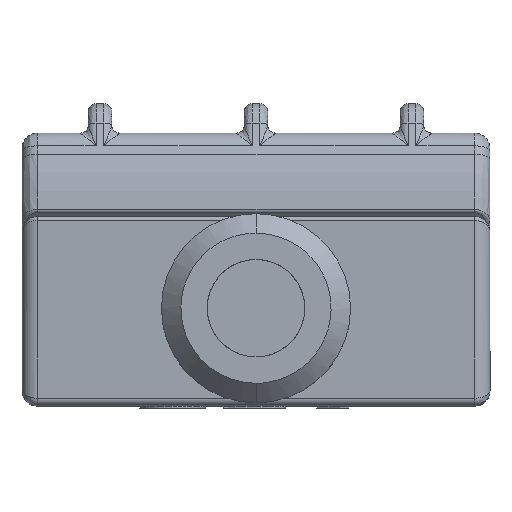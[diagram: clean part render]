
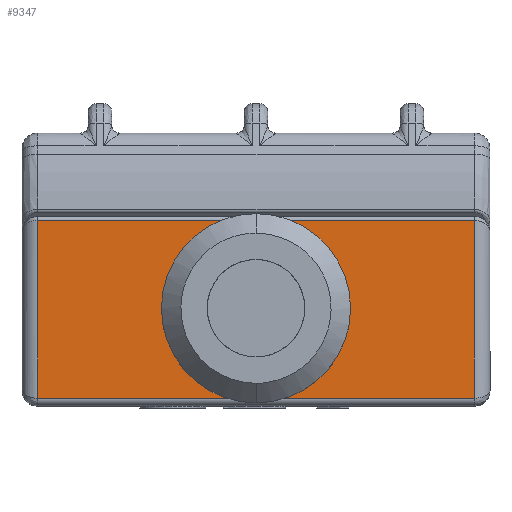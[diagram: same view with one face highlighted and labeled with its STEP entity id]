
A CAD part, top view. The second image highlights one B-rep face of the part: STEP entity #9347.
In plain terms, the highlighted planar face has unit normal (0, 0, 1).
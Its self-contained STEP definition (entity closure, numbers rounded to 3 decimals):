
#206 = CARTESIAN_POINT ( 'NONE',  ( 8.885, 15.037, 24.794 ) ) ;
#2674 = VECTOR ( 'NONE', #19135, 1000. ) ;
#3254 = VECTOR ( 'NONE', #5048, 1000. ) ;
#3287 = EDGE_CURVE ( 'NONE', #11479, #4508, #6193, .T. ) ;
#3518 = CARTESIAN_POINT ( 'NONE',  ( 8.885, 15.037, 24.794 ) ) ;
#3887 = ORIENTED_EDGE ( 'NONE', *, *, #15834, .T. ) ;
#4195 = DIRECTION ( 'NONE',  ( 0., 0., 1. ) ) ;
#4206 = DIRECTION ( 'NONE',  ( 0., 1., 0. ) ) ;
#4366 = CARTESIAN_POINT ( 'NONE',  ( 4.885, 15.037, 24.794 ) ) ;
#4508 = VERTEX_POINT ( 'NONE', #13192 ) ;
#4750 = LINE ( 'NONE', #5275, #5053 ) ;
#5048 = DIRECTION ( 'NONE',  ( 0., -1., 0. ) ) ;
#5053 = VECTOR ( 'NONE', #25549, 1000. ) ;
#5275 = CARTESIAN_POINT ( 'NONE',  ( 8.885, 10.437, 24.794 ) ) ;
#5543 = CIRCLE ( 'NONE', #10994, 4. ) ;
#5962 = EDGE_LOOP ( 'NONE', ( #16931, #20751 ) ) ;
#6021 = EDGE_CURVE ( 'NONE', #11479, #21424, #4750, .T. ) ;
#6177 = EDGE_CURVE ( 'NONE', #19596, #14875, #16121, .T. ) ;
#6193 = LINE ( 'NONE', #8174, #11264 ) ;
#7325 = FACE_BOUND ( 'NONE', #5962, .T. ) ;
#7911 = ORIENTED_EDGE ( 'NONE', *, *, #3287, .T. ) ;
#8174 = CARTESIAN_POINT ( 'NONE',  ( 20.085, 26.597, 24.794 ) ) ;
#9347 = ADVANCED_FACE ( 'NONE', ( #7325, #16824 ), #20192, .T. ) ;
#10544 = DIRECTION ( 'NONE',  ( 1., 0., 0. ) ) ;
#10994 = AXIS2_PLACEMENT_3D ( 'NONE', #3518, #13701, #17665 ) ;
#11264 = VECTOR ( 'NONE', #4206, 1000. ) ;
#11479 = VERTEX_POINT ( 'NONE', #14703 ) ;
#11572 = EDGE_CURVE ( 'NONE', #14875, #19596, #5543, .T. ) ;
#11592 = AXIS2_PLACEMENT_3D ( 'NONE', #20289, #4195, #22476 ) ;
#13192 = CARTESIAN_POINT ( 'NONE',  ( 20.085, 19.554, 24.794 ) ) ;
#13594 = ORIENTED_EDGE ( 'NONE', *, *, #6021, .F. ) ;
#13701 = DIRECTION ( 'NONE',  ( 0., 0., -1. ) ) ;
#14703 = CARTESIAN_POINT ( 'NONE',  ( 20.085, 10.437, 24.794 ) ) ;
#14875 = VERTEX_POINT ( 'NONE', #25266 ) ;
#14975 = AXIS2_PLACEMENT_3D ( 'NONE', #206, #16385, #10544 ) ;
#15834 = EDGE_CURVE ( 'NONE', #4508, #21262, #18170, .T. ) ;
#16121 = CIRCLE ( 'NONE', #14975, 4. ) ;
#16243 = ORIENTED_EDGE ( 'NONE', *, *, #20163, .T. ) ;
#16385 = DIRECTION ( 'NONE',  ( 0., 0., -1. ) ) ;
#16824 = FACE_OUTER_BOUND ( 'NONE', #21968, .T. ) ;
#16931 = ORIENTED_EDGE ( 'NONE', *, *, #11572, .T. ) ;
#17665 = DIRECTION ( 'NONE',  ( 1., 0., 0. ) ) ;
#18170 = LINE ( 'NONE', #25030, #2674 ) ;
#18802 = CARTESIAN_POINT ( 'NONE',  ( -2.315, 19.554, 24.794 ) ) ;
#19135 = DIRECTION ( 'NONE',  ( -1., 0., 0. ) ) ;
#19382 = LINE ( 'NONE', #19427, #3254 ) ;
#19427 = CARTESIAN_POINT ( 'NONE',  ( -2.315, 26.597, 24.794 ) ) ;
#19596 = VERTEX_POINT ( 'NONE', #4366 ) ;
#20163 = EDGE_CURVE ( 'NONE', #21262, #21424, #19382, .T. ) ;
#20192 = PLANE ( 'NONE',  #11592 ) ;
#20289 = CARTESIAN_POINT ( 'NONE',  ( 8.885, 26.597, 24.794 ) ) ;
#20751 = ORIENTED_EDGE ( 'NONE', *, *, #6177, .T. ) ;
#21262 = VERTEX_POINT ( 'NONE', #18802 ) ;
#21357 = CARTESIAN_POINT ( 'NONE',  ( -2.315, 10.437, 24.794 ) ) ;
#21424 = VERTEX_POINT ( 'NONE', #21357 ) ;
#21968 = EDGE_LOOP ( 'NONE', ( #16243, #13594, #7911, #3887 ) ) ;
#22476 = DIRECTION ( 'NONE',  ( 1., 0., 0. ) ) ;
#25030 = CARTESIAN_POINT ( 'NONE',  ( 8.885, 19.554, 24.794 ) ) ;
#25266 = CARTESIAN_POINT ( 'NONE',  ( 12.885, 15.037, 24.794 ) ) ;
#25549 = DIRECTION ( 'NONE',  ( -1., 0., 0. ) ) ;
